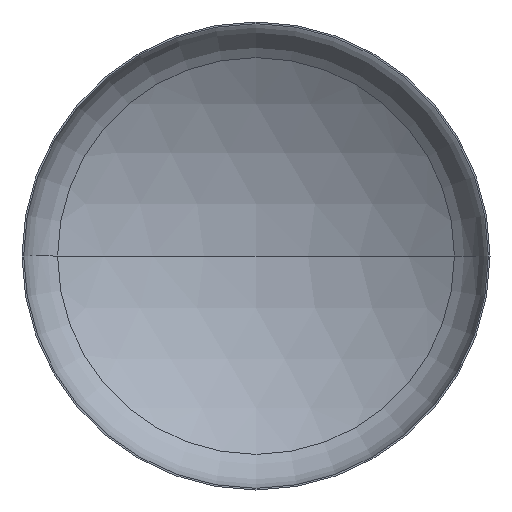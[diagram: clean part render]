
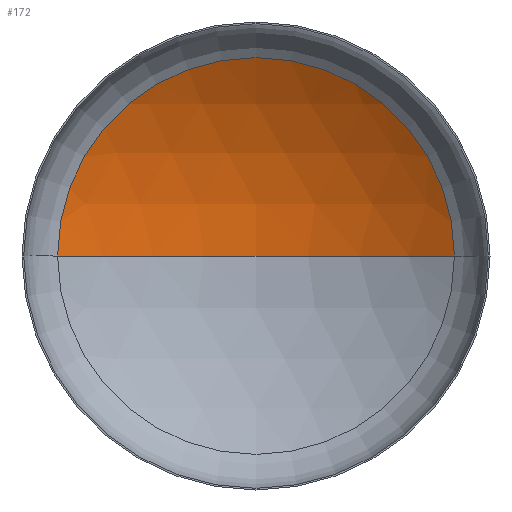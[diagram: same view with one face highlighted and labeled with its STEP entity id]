
A CAD part, front view. The second image highlights one B-rep face of the part: STEP entity #172.
In plain terms, the highlighted spherical face has radius 5600 mm.
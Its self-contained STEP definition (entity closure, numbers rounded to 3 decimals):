
#10 = CARTESIAN_POINT ( 'NONE',  ( 0., -3758.324, 0. ) ) ;
#30 = ORIENTED_EDGE ( 'NONE', *, *, #193, .F. ) ;
#31 = VERTEX_POINT ( 'NONE', #349 ) ;
#50 = CIRCLE ( 'NONE', #133, 5600. ) ;
#80 = SPHERICAL_SURFACE ( 'NONE', #147, 5600. ) ;
#97 = EDGE_LOOP ( 'NONE', ( #30, #122, #107 ) ) ;
#107 = ORIENTED_EDGE ( 'NONE', *, *, #189, .T. ) ;
#112 = VERTEX_POINT ( 'NONE', #229 ) ;
#122 = ORIENTED_EDGE ( 'NONE', *, *, #190, .T. ) ;
#123 = FACE_OUTER_BOUND ( 'NONE', #97, .T. ) ;
#129 = VERTEX_POINT ( 'NONE', #227 ) ;
#131 = AXIS2_PLACEMENT_3D ( 'NONE', #10, #233, #282 ) ;
#133 = AXIS2_PLACEMENT_3D ( 'NONE', #318, #316, #386 ) ;
#135 = AXIS2_PLACEMENT_3D ( 'NONE', #174, #177, #179 ) ;
#147 = AXIS2_PLACEMENT_3D ( 'NONE', #320, #310, #337 ) ;
#172 = ADVANCED_FACE ( 'NONE', ( #123 ), #80, .F. ) ;
#174 = CARTESIAN_POINT ( 'NONE',  ( 0., 990.927, 0. ) ) ;
#177 = DIRECTION ( 'NONE',  ( 0., -1., 0. ) ) ;
#179 = DIRECTION ( 'NONE',  ( 1., 0., 0. ) ) ;
#189 = EDGE_CURVE ( 'NONE', #112, #129, #199, .T. ) ;
#190 = EDGE_CURVE ( 'NONE', #31, #112, #50, .T. ) ;
#193 = EDGE_CURVE ( 'NONE', #31, #129, #313, .T. ) ;
#199 = CIRCLE ( 'NONE', #135, 2967.257 ) ;
#227 = CARTESIAN_POINT ( 'NONE',  ( -2967.257, 990.927, 0. ) ) ;
#229 = CARTESIAN_POINT ( 'NONE',  ( 2967.257, 990.927, 0. ) ) ;
#233 = DIRECTION ( 'NONE',  ( 0., 0., 1. ) ) ;
#282 = DIRECTION ( 'NONE',  ( 1., 0., 0. ) ) ;
#310 = DIRECTION ( 'NONE',  ( 0., 0., -1. ) ) ;
#313 = CIRCLE ( 'NONE', #131, 5600. ) ;
#316 = DIRECTION ( 'NONE',  ( 0., 0., -1. ) ) ;
#318 = CARTESIAN_POINT ( 'NONE',  ( 0., -3758.324, 0. ) ) ;
#320 = CARTESIAN_POINT ( 'NONE',  ( 0., -3758.324, 0. ) ) ;
#337 = DIRECTION ( 'NONE',  ( -1., 0., 0. ) ) ;
#349 = CARTESIAN_POINT ( 'NONE',  ( 0., 1841.676, 0. ) ) ;
#386 = DIRECTION ( 'NONE',  ( -1., 0., 0. ) ) ;
